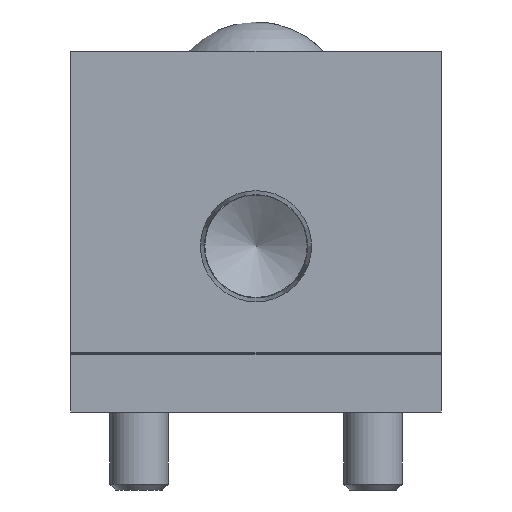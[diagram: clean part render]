
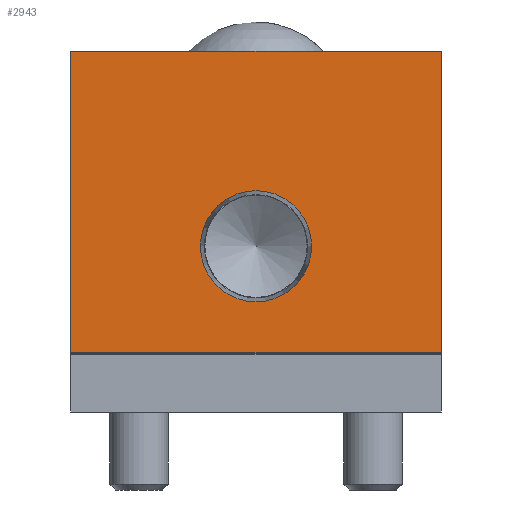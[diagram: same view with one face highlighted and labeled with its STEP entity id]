
A CAD part, front view. The second image highlights one B-rep face of the part: STEP entity #2943.
In plain terms, the highlighted planar face has unit normal (0, -1, 0).
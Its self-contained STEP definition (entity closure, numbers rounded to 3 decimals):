
#278=FACE_BOUND('',#711,.T.);
#351=CIRCLE('',#3103,5.704);
#493=FACE_OUTER_BOUND('',#710,.T.);
#710=EDGE_LOOP('',(#2153,#2154,#2155,#2156));
#711=EDGE_LOOP('',(#2157));
#938=LINE('',#4298,#1146);
#941=LINE('',#4303,#1149);
#943=LINE('',#4311,#1151);
#963=LINE('',#4360,#1171);
#1146=VECTOR('',#3451,30.9);
#1149=VECTOR('',#3456,38.);
#1151=VECTOR('',#3464,30.9);
#1171=VECTOR('',#3516,38.);
#1347=VERTEX_POINT('',#4295);
#1348=VERTEX_POINT('',#4297);
#1349=VERTEX_POINT('',#4301);
#1352=VERTEX_POINT('',#4309);
#1356=VERTEX_POINT('',#4323);
#1605=EDGE_CURVE('',#1348,#1347,#938,.T.);
#1608=EDGE_CURVE('',#1347,#1349,#941,.T.);
#1612=EDGE_CURVE('',#1352,#1349,#943,.T.);
#1617=EDGE_CURVE('',#1356,#1356,#351,.T.);
#1636=EDGE_CURVE('',#1352,#1348,#963,.T.);
#2153=ORIENTED_EDGE('',*,*,#1636,.T.);
#2154=ORIENTED_EDGE('',*,*,#1605,.T.);
#2155=ORIENTED_EDGE('',*,*,#1608,.T.);
#2156=ORIENTED_EDGE('',*,*,#1612,.F.);
#2157=ORIENTED_EDGE('',*,*,#1617,.T.);
#2662=PLANE('',#3165);
#2943=ADVANCED_FACE('',(#493,#278),#2662,.T.);
#3103=AXIS2_PLACEMENT_3D('',#4324,#3479,#3480);
#3165=AXIS2_PLACEMENT_3D('',#4522,#3654,#3655);
#3451=DIRECTION('',(0.,0.,1.));
#3456=DIRECTION('',(-1.,0.,0.));
#3464=DIRECTION('',(0.,0.,1.));
#3479=DIRECTION('center_axis',(0.,1.,0.));
#3480=DIRECTION('ref_axis',(1.,0.,0.));
#3516=DIRECTION('',(1.,0.,0.));
#3654=DIRECTION('center_axis',(0.,-1.,0.));
#3655=DIRECTION('ref_axis',(0.,0.,-1.));
#4295=CARTESIAN_POINT('',(19.,0.,37.));
#4297=CARTESIAN_POINT('',(19.,0.,6.1));
#4298=CARTESIAN_POINT('',(19.,0.,0.));
#4301=CARTESIAN_POINT('',(-19.,0.,37.));
#4303=CARTESIAN_POINT('',(19.,0.,37.));
#4309=CARTESIAN_POINT('',(-19.,0.,6.1));
#4311=CARTESIAN_POINT('',(-19.,0.,0.));
#4323=CARTESIAN_POINT('',(5.704,0.,17.));
#4324=CARTESIAN_POINT('Origin',(0.,0.,17.));
#4360=CARTESIAN_POINT('',(19.,0.,6.1));
#4522=CARTESIAN_POINT('Origin',(19.,0.,0.));
